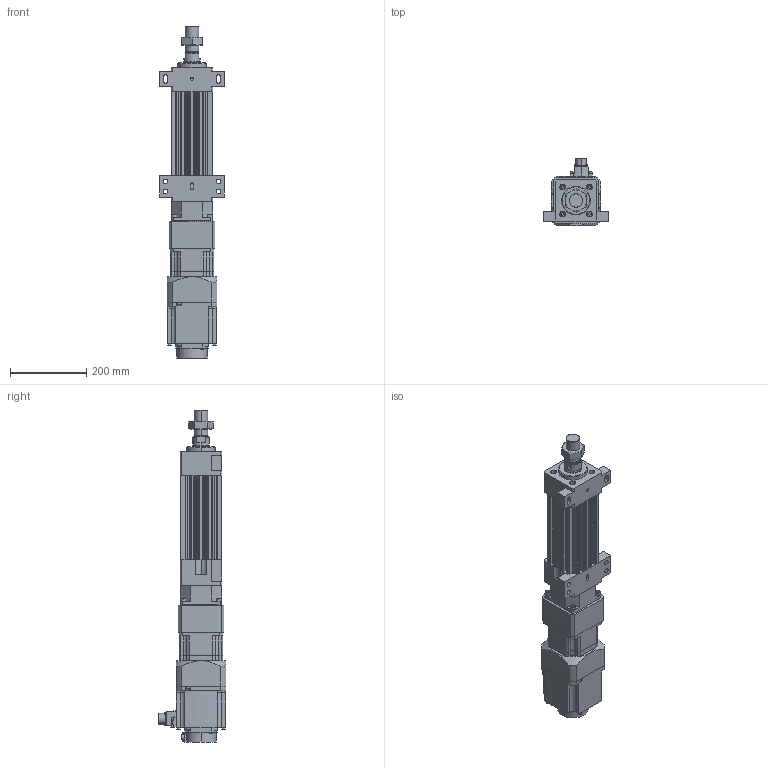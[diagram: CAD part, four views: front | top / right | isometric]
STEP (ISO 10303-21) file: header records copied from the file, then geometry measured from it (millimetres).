
FILE_DESCRIPTION (( 'STEP AP203' ), '1' );
FILE_NAME ('HES110NS(HS)-S050-W015G00-M-FFB.STEP', '2023-01-27T11:21:16', ( 'tms' ), ( '' ), 'SwSTEP 2.0', 'SolidWorks 2013', '' );
FILE_SCHEMA (( 'CONFIG_CONTROL_DESIGN' ));
Length unit declared in the file: millimetre
Products named in the file (8): HES110-S050-G120-FFB; M36X1.5P; AB1151; P0401400706; HG-SR152; HES110 ROD M ST050; HES110NS(HS)-S050-W015G00-M-FFB; AB115-003[HG-SR152]
Assembly tree (7 placements, depth 3):
  HES110NS(HS)-S050-W015G00-M-FFB
    HES110-S050-G120-FFB
    HES110 ROD M ST050
    M36X1.5P
    AB115-003[HG-SR152]
      AB1151
      P0401400706
    HG-SR152
Bounding box: 170 x 177.49 x 871.5 mm (x, y, z)
Volume: 5750055.9 mm3; surface area: 750143.5 mm2
Topology: 4 solids, 15 shells, 1194 faces, 3023 edges, 1968 vertices
Faces by surface type: plane 571, cylinder 531, cone 80, bspline 8, torus 4
Entity records: 37745 total; most frequent: CARTESIAN_POINT 7162, DIRECTION 6520, ORIENTED_EDGE 5998, EDGE_CURVE 3009, AXIS2_PLACEMENT_3D 2386, VERTEX_POINT 1968, VECTOR 1748, LINE 1748
